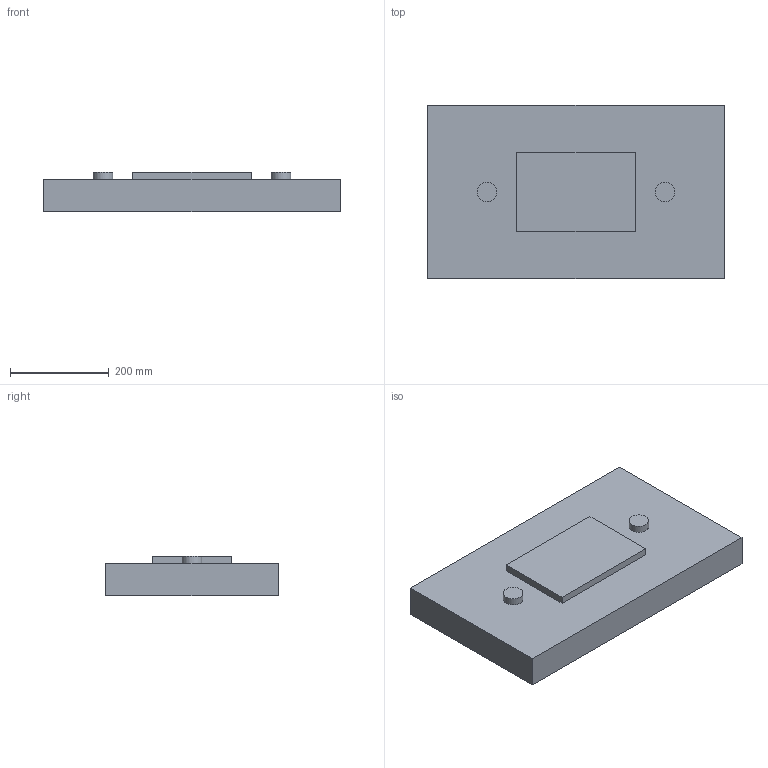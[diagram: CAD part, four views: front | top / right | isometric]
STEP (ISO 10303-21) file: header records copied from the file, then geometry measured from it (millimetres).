
FILE_DESCRIPTION(/* description */ (''),/* implementation_level */ '2;1');
FILE_NAME(/* name */ 'gpr.step',/* time_stamp */ '2026-11-14T21:13:09+01:00',/* author */ ('malgo'),/* organization */ (''),/* preprocessor_version */ 'ST-DEVELOPER v20.1',/* originating_system */ 'Autodesk Inventor 2026',/* authorisation */ '');
FILE_SCHEMA (('AUTOMOTIVE_DESIGN { 1 0 10303 214 3 1 1 }'));
Length unit declared in the file: metre
Products named in the file (1): gpr
Bounding box: 600 x 350 x 80 mm (x, y, z)
Volume: 14263699.1 mm3; surface area: 559269.9 mm2
Topology: 1 solids, 1 shells, 15 faces, 30 edges, 20 vertices
Faces by surface type: plane 13, cylinder 2
Full cylindrical faces by diameter (mm): 40 x2
Entity records: 425 total; most frequent: DIRECTION 66, CARTESIAN_POINT 66, ORIENTED_EDGE 60, EDGE_CURVE 30, LINE 26, VECTOR 26, VERTEX_POINT 20, AXIS2_PLACEMENT_3D 20
